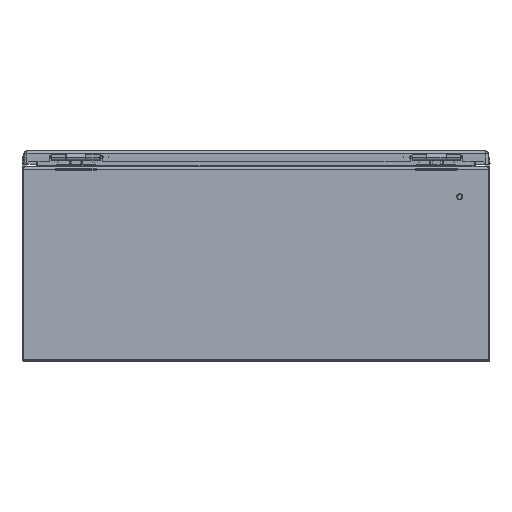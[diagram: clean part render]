
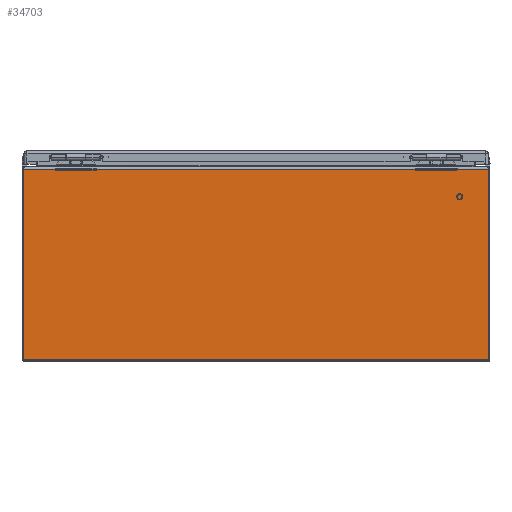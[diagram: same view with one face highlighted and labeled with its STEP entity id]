
A CAD part, left-side view. The second image highlights one B-rep face of the part: STEP entity #34703.
In plain terms, the highlighted planar face has unit normal (-1, 0, 0).
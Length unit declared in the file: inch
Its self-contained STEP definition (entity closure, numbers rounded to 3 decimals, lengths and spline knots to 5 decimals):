
#11672 = ORIENTED_EDGE ( 'NONE', *, *, #23473, .T. ) ;
#11673 = ORIENTED_EDGE ( 'NONE', *, *, #23488, .F. ) ;
#11674 = ORIENTED_EDGE ( 'NONE', *, *, #23430, .T. ) ;
#11675 = ORIENTED_EDGE ( 'NONE', *, *, #23491, .T. ) ;
#17031 = FACE_OUTER_BOUND ( 'NONE', #40295, .T. ) ;
#18524 = VERTEX_POINT ( 'NONE', #35272 ) ;
#18550 = VERTEX_POINT ( 'NONE', #35279 ) ;
#18696 = VERTEX_POINT ( 'NONE', #35370 ) ;
#18699 = VERTEX_POINT ( 'NONE', #35373 ) ;
#19383 = AXIS2_PLACEMENT_3D ( 'NONE', #20068, #20077, #20078 ) ;
#20068 = CARTESIAN_POINT ( 'NONE',  ( -12., 132., 9.855 ) ) ;
#20072 = PLANE ( 'NONE',  #19383 ) ;
#20077 = DIRECTION ( 'NONE',  ( -1., 0., 0. ) ) ;
#20078 = DIRECTION ( 'NONE',  ( 0., 0., -1. ) ) ;
#23430 = EDGE_CURVE ( 'NONE', #18696, #18699, #41669, .T. ) ;
#23473 = EDGE_CURVE ( 'NONE', #18524, #18550, #41730, .T. ) ;
#23488 = EDGE_CURVE ( 'NONE', #18696, #18550, #41751, .T. ) ;
#23491 = EDGE_CURVE ( 'NONE', #18699, #18524, #41756, .T. ) ;
#34703 = ADVANCED_FACE ( 'NONE', ( #17031 ), #20072, .T. ) ;
#35272 = CARTESIAN_POINT ( 'NONE',  ( -12., -11.93793, 0.106 ) ) ;
#35279 = CARTESIAN_POINT ( 'NONE',  ( -12., -11.93793, 9.855 ) ) ;
#35370 = CARTESIAN_POINT ( 'NONE',  ( -12., 11.93793, 9.855 ) ) ;
#35373 = CARTESIAN_POINT ( 'NONE',  ( -12., 11.93793, 0.106 ) ) ;
#40295 = EDGE_LOOP ( 'NONE', ( #11672, #11673, #11674, #11675 ) ) ;
#41665 = VECTOR ( 'NONE', #41880, 39.37008 ) ;
#41669 = LINE ( 'NONE', #41879, #41665 ) ;
#41730 = LINE ( 'NONE', #42010, #41733 ) ;
#41733 = VECTOR ( 'NONE', #42012, 39.37008 ) ;
#41751 = LINE ( 'NONE', #42079, #41757 ) ;
#41756 = LINE ( 'NONE', #42083, #41765 ) ;
#41757 = VECTOR ( 'NONE', #42081, 39.37008 ) ;
#41765 = VECTOR ( 'NONE', #42094, 39.37008 ) ;
#41879 = CARTESIAN_POINT ( 'NONE',  ( -12., 11.93793, 9.855 ) ) ;
#41880 = DIRECTION ( 'NONE',  ( 0., 0., -1. ) ) ;
#42010 = CARTESIAN_POINT ( 'NONE',  ( -12., -11.93793, 9.855 ) ) ;
#42012 = DIRECTION ( 'NONE',  ( 0., 0., 1. ) ) ;
#42079 = CARTESIAN_POINT ( 'NONE',  ( -12., 132., 9.855 ) ) ;
#42081 = DIRECTION ( 'NONE',  ( 0., -1., 0. ) ) ;
#42083 = CARTESIAN_POINT ( 'NONE',  ( -12., 132., 0.106 ) ) ;
#42094 = DIRECTION ( 'NONE',  ( 0., -1., 0. ) ) ;
